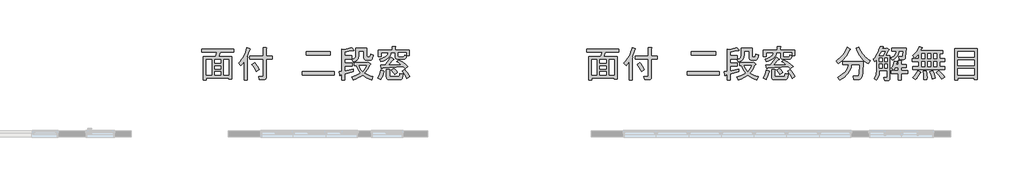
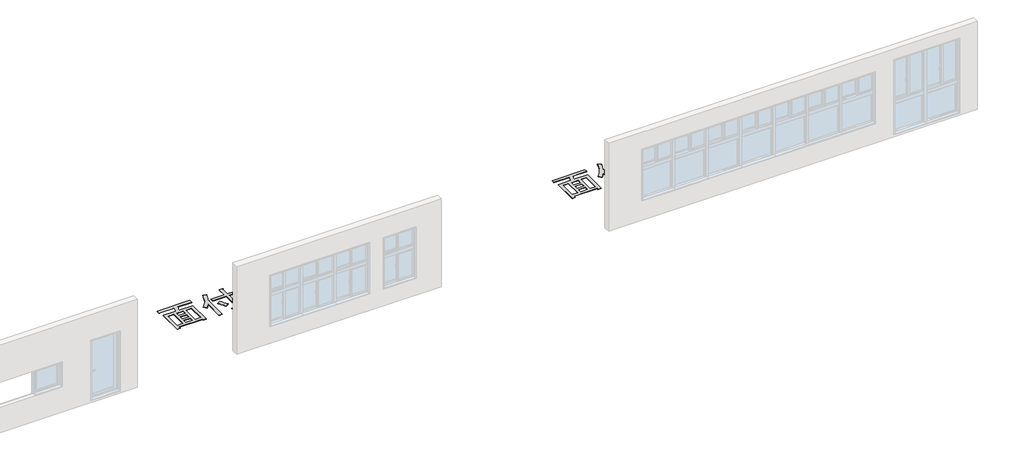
# One storey, part 5 of 9: 2 proxies.
"""IFC4 building model written with IfcOpenShell, lengths in millimetres."""

from ifc_helpers import new_model, si_unit, origin, origin_with_axes, place, context, project, spatial, polyline, outline, extrude, element, save

model = new_model("IFC4")

# Units and contexts
model_context = context("Model", 3, world=origin())
ifc_project = project(units=[si_unit("LENGTHUNIT", "METRE", prefix="MILLI")], contexts=[model_context])

# Site, building, storey
site = spatial("IfcSite", under=ifc_project)
building = spatial("IfcBuilding", under=site)
storey = spatial("IfcBuildingStorey", under=building, Name="レベル 1", Elevation=0.0)

# Proxies
placement = place(None, origin())
element("IfcBuildingElementProxy", 1, Name="600mm Arial", ObjectType="600mm Arial", at=placement, inside=storey, context=model_context, shape_type="SweptSolid", body=[
    extrude(outline(polyline([(98031.4662831, -14884.2035738), (97931.7378591, -14884.2035738), (97931.7378591, -14842.4386369), (97187.3851991, -14842.4386369), (97187.3851991, -14903.7198995), (97087.656775, -14903.7198995), (97087.656775, -14132.8250366), (97489.8882465, -14132.8250366), (97528.9208978, -13978.8412272), (97031.2545939, -13978.8412272), (97031.2545939, -13879.1128032), (98090.0152601, -13879.1128032), (98090.0152601, -13978.8412272), (97641.1397703, -13978.8412272), (97587.4698747, -14132.8250366), (98031.4662831, -14132.8250366), (98031.4662831, -14884.2035738)]), holes=[polyline([(97356.0062526, -14742.7102129), (97356.0062526, -14232.5534606), (97187.3851991, -14232.5534606), (97187.3851991, -14742.7102129), (97356.0062526, -14742.7102129)]), polyline([(97663.3883815, -14742.7102129), (97663.3883815, -14629.9058507), (97455.7346767, -14629.9058507), (97455.7346767, -14742.7102129), (97663.3883815, -14742.7102129)]), polyline([(97663.3883815, -14542.6678751), (97663.3883815, -14439.6216757), (97455.7346767, -14439.6216757), (97455.7346767, -14542.6678751), (97663.3883815, -14542.6678751)]), polyline([(97663.3883815, -14232.5534606), (97455.7346767, -14232.5534606), (97455.7346767, -14352.3837), (97663.3883815, -14352.3837), (97663.3883815, -14232.5534606)]), polyline([(97931.7378591, -14232.5534606), (97763.1168055, -14232.5534606), (97763.1168055, -14742.7102129), (97931.7378591, -14742.7102129), (97931.7378591, -14232.5534606)])]), origin_with_axes(), (0.0, 0.0, 1.0), 10.0),
    extrude(outline(polyline([(98612.076971, -13898.6291288), (98595.6100712, -13959.6176465), (98575.4838604, -14020.6061641), (98551.6983385, -14081.5946817), (98524.2535056, -14142.5831994), (98543.1599461, -14148.6820511), (98551.0884534, -14157.2204436), (98548.0390275, -14168.1983768), (98534.0116684, -14181.6158507), (98534.0116684, -14903.7198995), (98434.2832444, -14903.7198995), (98434.2832444, -14298.7138045), (98381.7355376, -14370.6802553), (98329.0902492, -14430.4490026), (98251.0249466, -14342.6255372), (98301.1880024, -14290.8615329), (98346.7769193, -14235.5906888), (98387.7916974, -14176.8130049), (98424.2323367, -14114.5284813), (98456.0988372, -14048.7371179), (98483.3911988, -13979.4389147), (98506.1094216, -13906.6338718), (98524.2535056, -13830.3219891), (98626.7142152, -13869.3546404), (98633.1180096, -13878.502918), (98632.813067, -13886.4314253), (98625.7993875, -13893.1401623), (98612.076971, -13898.6291288)])), origin_with_axes(), (0.0, 0.0, 1.0), 10.0),
    extrude(outline(polyline([(99063.6847464, -14113.3087109), (99063.6847464, -13835.2010705), (99158.534089, -13835.2010705), (99173.4762758, -13838.8603816), (99179.270185, -13844.9592333), (99175.9158165, -13853.4976258), (99163.4131704, -13864.475559), (99163.4131704, -14113.3087109), (99363.4555083, -14113.3087109), (99363.4555083, -14213.037135), (99163.4131704, -14213.037135), (99163.4131704, -14811.0173527), (99158.534089, -14848.2447438), (99152.4352373, -14862.8697904), (99143.8968448, -14874.8357375), (99132.9189116, -14884.1425853), (99119.5014377, -14890.7903337), (99085.3478679, -14896.1085325), (98938.9754255, -14896.1085325), (98914.5800185, -14796.3801084), (99046.3152166, -14796.3801084), (99059.3423639, -14791.501027), (99063.6847464, -14776.8637828), (99063.6847464, -14213.037135), (98626.7142152, -14213.037135), (98626.7142152, -14113.3087109), (99063.6847464, -14113.3087109)])), origin_with_axes(), (0.0, 0.0, 1.0), 10.0),
    extrude(outline(polyline([(98782.8448204, -14332.8673744), (98823.4021846, -14385.6224422), (98862.1298933, -14441.4269358), (98934.0963441, -14562.1842007), (98836.5147159, -14625.612259), (98801.7512609, -14557.9150045), (98765.7680354, -14496.3166017), (98728.5650397, -14440.8170506), (98690.1422736, -14391.4163513), (98782.8448204, -14332.8673744)])), origin_with_axes(), (0.0, 0.0, 1.0), 10.0),
    extrude(outline(polyline([(101285.6184209, -13971.81535), (101285.6184209, -14084.0342225), (100485.4490695, -14084.0342225), (100485.4490695, -13971.81535), (101285.6184209, -13971.81535)])), origin_with_axes(), (0.0, 0.0, 1.0), 10.0),
    extrude(outline(polyline([(101407.5954561, -14635.3704219), (101407.5954561, -14747.5892943), (100353.7138714, -14747.5892943), (100353.7138714, -14635.3704219), (101407.5954561, -14635.3704219)])), origin_with_axes(), (0.0, 0.0, 1.0), 10.0),
    extrude(outline(polyline([(101758.8893177, -13898.6291288), (101818.9630076, -13887.3462531), (101877.2070419, -13873.0139514), (101933.6214207, -13855.6322239), (101988.206144, -13835.2010705), (102056.5132838, -13913.2663731), (102061.3923652, -13923.6344211), (102056.5132838, -13930.343158), (102041.8760395, -13933.3925839), (102017.4806325, -13932.7826987), (101896.7233676, -13958.3978761), (101768.6474805, -13976.6944314), (101768.6474805, -14108.4296295), (101997.9643068, -14108.4296295), (101997.9643068, -14208.1580535), (101768.6474805, -14208.1580535), (101768.6474805, -14342.6255372), (102002.8433882, -14342.6255372), (102002.8433882, -14442.3539613), (101768.6474805, -14442.3539613), (101768.6474805, -14606.0959334), (102046.7551209, -14547.5469565), (102046.7551209, -14635.3704219), (101768.6474805, -14708.556643), (101768.6474805, -14903.7198995), (101668.9190565, -14903.7198995), (101668.9190565, -14728.0729687), (101617.3959568, -14742.7102129), (101614.0415883, -14756.4326294), (101608.8575643, -14763.4463089), (101601.8438848, -14763.7512515), (101593.0005497, -14757.3474571), (101578.3633055, -14635.3704219), (101668.9190565, -14620.7331776), (101668.9190565, -13879.1128032), (101758.8893177, -13898.6291288)])), origin_with_axes(), (0.0, 0.0, 1.0), 10.0),
    extrude(outline(polyline([(102563.9377505, -14152.3413622), (102587.1133872, -14147.4622808), (102594.1270667, -14141.363429), (102598.0913204, -14132.8250366), (102617.607646, -14054.759734), (102710.3101928, -14079.155141), (102702.0005073, -14119.682011), (102691.7086949, -14154.8052983), (102679.4347558, -14184.525003), (102665.1786898, -14208.8411249), (102648.9404969, -14227.7536643), (102630.7201773, -14241.2626209), (102610.5177308, -14249.3679949), (102588.3331575, -14252.0697862), (102485.8724479, -14252.0697862), (102464.7856679, -14250.6640009), (102446.5104586, -14246.4466449), (102431.04682, -14239.4177183), (102418.394752, -14229.5772209), (102408.5542547, -14216.925153), (102401.525328, -14201.4615143), (102397.307972, -14183.186305), (102395.9021867, -14162.099525), (102395.9021867, -13949.5667388), (102227.2811331, -13949.5667388), (102227.2811331, -14093.7923853), (102224.3841786, -14134.6546921), (102215.6933148, -14171.8576878), (102201.2085418, -14205.4013725), (102180.9298597, -14235.2857462), (102154.8572684, -14261.5108088), (102122.990768, -14284.0765603), (102085.3303583, -14302.9830008), (102041.8760395, -14318.2301302), (102002.8433882, -14230.4066648), (102032.0721353, -14221.7920367), (102057.4037161, -14210.5853965), (102078.8381306, -14196.7867444), (102096.3753789, -14180.3960803), (102110.0154609, -14161.4134042), (102119.7583765, -14139.8387161), (102125.604126, -14115.672016), (102127.5527091, -14088.9133039), (102127.5527091, -13849.8383147), (102495.6306107, -13849.8383147), (102495.6306107, -14113.3087109), (102497.7652088, -14130.3854959), (102504.1690032, -14142.5831994), (102514.8419938, -14149.9018215), (102529.7841806, -14152.3413622), (102563.9377505, -14152.3413622)])), origin_with_axes(), (0.0, 0.0, 1.0), 10.0),
    extrude(outline(polyline([(102651.7612159, -14903.7198995), (102570.6464874, -14873.5305832), (102493.19107, -14836.6325301), (102419.3949637, -14793.02574), (102349.2581684, -14742.7102129), (102285.8301101, -14789.6713715), (102212.6438889, -14832.973219), (102129.6995049, -14872.6157555), (102036.9969581, -14908.5989809), (101993.0852254, -14806.1382712), (102082.4334038, -14778.0835531), (102160.1937637, -14747.5892943), (102226.3663054, -14714.6554948), (102280.9510287, -14679.2821546), (102237.9541237, -14620.8185616), (102201.6659557, -14559.4031243), (102172.0865247, -14495.0358428), (102149.2158306, -14427.716717), (102076.0296094, -14427.716717), (102076.0296094, -14327.988293), (102505.3887736, -14327.988293), (102524.9050992, -14308.4719673), (102602.9704018, -14371.9000257), (102613.0335072, -14380.7433607), (102613.9483349, -14387.7570403), (102605.7148851, -14392.9410643), (102588.3331575, -14396.2954327), (102549.9103914, -14483.8139555), (102507.8283143, -14560.9644304), (102462.086926, -14627.7468572), (102412.6862267, -14684.161236), (102470.3203759, -14714.9604374), (102535.8830324, -14743.9299833), (102609.3741961, -14771.0698736), (102690.7938672, -14796.3801084), (102651.7612159, -14903.7198995)]), holes=[polyline([(102237.039296, -14427.716717), (102253.2012531, -14475.4341332), (102277.2917176, -14524.322529), (102309.3106894, -14574.3819042), (102349.2581684, -14625.612259), (102387.9858771, -14581.4077815), (102421.2246192, -14533.6903653), (102448.9743947, -14482.4600105), (102471.2352037, -14427.716717), (102237.039296, -14427.716717)])]), origin_with_axes(), (0.0, 0.0, 1.0), 10.0),
    extrude(outline(polyline([(103232.3719038, -14900.9876139), (103211.2851238, -14899.5818285), (103193.0099145, -14895.3644725), (103177.5462758, -14888.3355459), (103164.8942078, -14878.4950486), (103155.0537105, -14865.8429806), (103148.0247839, -14850.3793419), (103143.8074279, -14832.1041326), (103142.4016425, -14811.0173527), (103142.4016425, -14567.0632821), (103237.2509852, -14567.0632821), (103252.193172, -14570.7225932), (103257.9870812, -14576.8214449), (103254.6327127, -14585.3598374), (103242.1300666, -14596.3377706), (103242.1300666, -14767.10562), (103243.9597221, -14782.0478068), (103249.4486887, -14792.7207974), (103258.5969663, -14799.1245917), (103271.404555, -14801.2591898), (103529.9958698, -14801.2591898), (103541.5074525, -14799.5820056), (103551.6467936, -14794.5504529), (103567.8087507, -14774.4242421), (103578.4817413, -14740.8805574), (103583.6657653, -14693.9193988), (103691.0055564, -14718.3148059), (103686.126475, -14761.1287452), (103678.8078528, -14798.2341594), (103669.04969, -14829.6310482), (103656.8519865, -14855.3194119), (103642.2147423, -14875.2992502), (103625.1379573, -14889.5705634), (103605.6216317, -14898.1333512), (103583.6657653, -14900.9876139), (103232.3719038, -14900.9876139)])), origin_with_axes(), (0.0, 0.0, 1.0), 10.0),
    extrude(outline(polyline([(102998.175996, -14508.5143052), (102994.8216276, -14522.2367217), (102989.6376036, -14529.2504012), (102982.623924, -14529.5553438), (102973.780589, -14523.1515494), (102949.3851819, -14415.8117584), (103100.6367057, -14415.8117584), (103286.0417993, -14157.2204436), (103383.6234275, -14215.7694205), (103383.9283701, -14225.832526), (103379.9641164, -14231.6264351), (103371.7306666, -14233.1511481), (103359.2280204, -14230.4066648), (103193.3392525, -14415.8117584), (103612.9402538, -14391.4163513), (103545.8528844, -14338.9662262), (103481.2050557, -14298.7138045), (103544.633114, -14245.043909), (103607.4512872, -14274.9282826), (103678.8078528, -14320.6696709), (103758.7028109, -14382.2680737), (103847.1361615, -14459.7234911), (103759.3126961, -14528.0306308), (103691.0055564, -14459.7234911), (102998.175996, -14508.5143052)])), origin_with_axes(), (0.0, 0.0, 1.0), 10.0),
    extrude(outline(polyline([(103749.5545333, -14567.0632821), (103798.0404048, -14621.952948), (103841.0373098, -14679.2821546), (103878.5452481, -14739.0509018), (103910.5642199, -14801.2591898), (103812.9825916, -14864.6872482), (103782.1833902, -14796.3801084), (103748.3347629, -14732.9520501), (103711.4367098, -14674.4030732), (103671.4892307, -14620.7331776), (103749.5545333, -14567.0632821)])), origin_with_axes(), (0.0, 0.0, 1.0), 10.0),
    extrude(outline(polyline([(103412.897916, -14723.1938873), (103395.2112458, -14690.2600877), (103371.425724, -14654.8867475), (103305.5581249, -14576.8214449), (103388.5025089, -14523.1515494), (103419.6066529, -14549.9864972), (103449.4910265, -14581.7005264), (103478.1556298, -14618.2936369), (103505.6004628, -14659.7658289), (103412.897916, -14723.1938873)])), origin_with_axes(), (0.0, 0.0, 1.0), 10.0),
    extrude(outline(polyline([(102856.6826351, -14840.2918411), (102892.3609179, -14771.0698736), (102921.3304638, -14704.897332), (102943.5912728, -14641.7742162), (102959.1433448, -14581.7005264), (103056.724973, -14615.8540962), (103063.7386525, -14623.1727183), (103065.2633654, -14630.4913405), (103061.2991118, -14637.8099626), (103051.8458916, -14645.1285847), (103032.9394511, -14711.6060689), (103010.3736996, -14774.4242421), (102984.148637, -14833.5831042), (102954.2642633, -14889.0826552), (102856.6826351, -14840.2918411)])), origin_with_axes(), (0.0, 0.0, 1.0), 10.0),
    extrude(outline(polyline([(103900.806057, -13913.2663731), (103900.806057, -14103.5505481), (103817.8616731, -14103.5505481), (103802.3096011, -14154.5247511), (103792.0177887, -14174.5503309), (103780.0487921, -14190.9348962), (103766.4026113, -14203.6784469), (103751.0792462, -14212.7809832), (103734.078697, -14218.2425049), (103715.4009634, -14220.0630122), (103510.4795442, -14220.0630122), (103477.5213492, -14214.6106387), (103464.5734869, -14207.7951719), (103453.9797814, -14198.2535183), (103445.7402327, -14185.985678), (103439.8548408, -14170.9916509), (103435.1465272, -14132.8250366), (103435.1465272, -14000.5043487), (103290.9208807, -14000.5043487), (103284.593322, -14049.7678238), (103268.0501866, -14095.7806109), (103241.2914745, -14138.5427101), (103204.3171856, -14178.0541212), (103157.1273201, -14214.3148444), (103099.7218779, -14247.3248796), (103032.100859, -14277.0842267), (102954.2642633, -14303.5928859), (102924.9897749, -14210.8903391), (102987.8841837, -14192.2766436), (103042.3926713, -14171.4673613), (103088.5152378, -14148.4624925), (103126.2518831, -14123.262037), (103155.6026072, -14095.8659949), (103176.5674101, -14066.2743661), (103189.1462919, -14034.4871507), (103193.3392525, -14000.5043487), (102964.0224262, -14000.5043487), (102964.0224262, -14127.9459551), (102864.2940021, -14127.9459551), (102864.2940021, -13913.2663731), (103327.8067362, -13913.2663731), (103327.8067362, -13796.1684192), (103422.6560788, -13796.1684192), (103437.5982656, -13799.8277303), (103443.3921748, -13805.926582), (103440.0378063, -13814.4649745), (103427.5351602, -13825.4429077), (103427.5351602, -13913.2663731), (103900.806057, -13913.2663731)]), holes=[polyline([(103686.126475, -14132.8250366), (103701.678547, -14129.1657255), (103714.1811931, -14118.1877923), (103723.6344133, -14099.891237), (103730.0382077, -14074.2760596), (103801.077633, -14093.7923853), (103801.077633, -14000.5043487), (103534.8749512, -14000.5043487), (103534.8749512, -14103.5505481), (103536.7046068, -14116.3581368), (103542.1935733, -14125.5064144), (103551.341851, -14130.995381), (103564.1494397, -14132.8250366), (103686.126475, -14132.8250366)])]), origin_with_axes(), (0.0, 0.0, 1.0), 10.0),
])
element("IfcBuildingElementProxy", 2, Name="600mm Arial", ObjectType="600mm Arial", at=placement, inside=storey, context=model_context, shape_type="SweptSolid", body=[
    extrude(outline(polyline([(110771.4662831, -14884.2035738), (110671.7378591, -14884.2035738), (110671.7378591, -14842.4386369), (109927.3851991, -14842.4386369), (109927.3851991, -14903.7198995), (109827.656775, -14903.7198995), (109827.656775, -14132.8250366), (110229.8882465, -14132.8250366), (110268.9208978, -13978.8412272), (109771.2545939, -13978.8412272), (109771.2545939, -13879.1128032), (110830.0152601, -13879.1128032), (110830.0152601, -13978.8412272), (110381.1397703, -13978.8412272), (110327.4698747, -14132.8250366), (110771.4662831, -14132.8250366), (110771.4662831, -14884.2035738)]), holes=[polyline([(110096.0062526, -14742.7102129), (110096.0062526, -14232.5534606), (109927.3851991, -14232.5534606), (109927.3851991, -14742.7102129), (110096.0062526, -14742.7102129)]), polyline([(110403.3883815, -14742.7102129), (110403.3883815, -14629.9058507), (110195.7346767, -14629.9058507), (110195.7346767, -14742.7102129), (110403.3883815, -14742.7102129)]), polyline([(110403.3883815, -14542.6678751), (110403.3883815, -14439.6216757), (110195.7346767, -14439.6216757), (110195.7346767, -14542.6678751), (110403.3883815, -14542.6678751)]), polyline([(110403.3883815, -14232.5534606), (110195.7346767, -14232.5534606), (110195.7346767, -14352.3837), (110403.3883815, -14352.3837), (110403.3883815, -14232.5534606)]), polyline([(110671.7378591, -14232.5534606), (110503.1168055, -14232.5534606), (110503.1168055, -14742.7102129), (110671.7378591, -14742.7102129), (110671.7378591, -14232.5534606)])]), origin_with_axes(), (0.0, 0.0, 1.0), 10.0),
    extrude(outline(polyline([(111352.076971, -13898.6291288), (111335.6100712, -13959.6176465), (111315.4838604, -14020.6061641), (111291.6983385, -14081.5946817), (111264.2535056, -14142.5831994), (111283.1599461, -14148.6820511), (111291.0884534, -14157.2204436), (111288.0390275, -14168.1983768), (111274.0116684, -14181.6158507), (111274.0116684, -14903.7198995), (111174.2832444, -14903.7198995), (111174.2832444, -14298.7138045), (111121.7355376, -14370.6802553), (111069.0902492, -14430.4490026), (110991.0249466, -14342.6255372), (111041.1880024, -14290.8615329), (111086.7769193, -14235.5906888), (111127.7916974, -14176.8130049), (111164.2323367, -14114.5284813), (111196.0988372, -14048.7371179), (111223.3911988, -13979.4389147), (111246.1094216, -13906.6338718), (111264.2535056, -13830.3219891), (111366.7142152, -13869.3546404), (111373.1180096, -13878.502918), (111372.813067, -13886.4314253), (111365.7993875, -13893.1401623), (111352.076971, -13898.6291288)])), origin_with_axes(), (0.0, 0.0, 1.0), 10.0),
    extrude(outline(polyline([(111803.6847464, -14113.3087109), (111803.6847464, -13835.2010705), (111898.534089, -13835.2010705), (111913.4762758, -13838.8603816), (111919.270185, -13844.9592333), (111915.9158165, -13853.4976258), (111903.4131704, -13864.475559), (111903.4131704, -14113.3087109), (112103.4555083, -14113.3087109), (112103.4555083, -14213.037135), (111903.4131704, -14213.037135), (111903.4131704, -14811.0173527), (111898.534089, -14848.2447438), (111892.4352373, -14862.8697904), (111883.8968448, -14874.8357375), (111872.9189116, -14884.1425853), (111859.5014377, -14890.7903337), (111825.3478679, -14896.1085325), (111678.9754255, -14896.1085325), (111654.5800185, -14796.3801084), (111786.3152166, -14796.3801084), (111799.3423639, -14791.501027), (111803.6847464, -14776.8637828), (111803.6847464, -14213.037135), (111366.7142152, -14213.037135), (111366.7142152, -14113.3087109), (111803.6847464, -14113.3087109)])), origin_with_axes(), (0.0, 0.0, 1.0), 10.0),
    extrude(outline(polyline([(111522.8448204, -14332.8673744), (111563.4021846, -14385.6224422), (111602.1298933, -14441.4269358), (111674.0963441, -14562.1842007), (111576.5147159, -14625.612259), (111541.7512609, -14557.9150045), (111505.7680354, -14496.3166017), (111468.5650397, -14440.8170506), (111430.1422736, -14391.4163513), (111522.8448204, -14332.8673744)])), origin_with_axes(), (0.0, 0.0, 1.0), 10.0),
    extrude(outline(polyline([(114025.6184209, -13971.81535), (114025.6184209, -14084.0342225), (113225.4490695, -14084.0342225), (113225.4490695, -13971.81535), (114025.6184209, -13971.81535)])), origin_with_axes(), (0.0, 0.0, 1.0), 10.0),
    extrude(outline(polyline([(114147.5954561, -14635.3704219), (114147.5954561, -14747.5892943), (113093.7138714, -14747.5892943), (113093.7138714, -14635.3704219), (114147.5954561, -14635.3704219)])), origin_with_axes(), (0.0, 0.0, 1.0), 10.0),
    extrude(outline(polyline([(114498.8893177, -13898.6291288), (114558.9630076, -13887.3462531), (114617.2070419, -13873.0139514), (114673.6214207, -13855.6322239), (114728.206144, -13835.2010705), (114796.5132838, -13913.2663731), (114801.3923652, -13923.6344211), (114796.5132838, -13930.343158), (114781.8760395, -13933.3925839), (114757.4806325, -13932.7826987), (114636.7233676, -13958.3978761), (114508.6474805, -13976.6944314), (114508.6474805, -14108.4296295), (114737.9643068, -14108.4296295), (114737.9643068, -14208.1580535), (114508.6474805, -14208.1580535), (114508.6474805, -14342.6255372), (114742.8433882, -14342.6255372), (114742.8433882, -14442.3539613), (114508.6474805, -14442.3539613), (114508.6474805, -14606.0959334), (114786.7551209, -14547.5469565), (114786.7551209, -14635.3704219), (114508.6474805, -14708.556643), (114508.6474805, -14903.7198995), (114408.9190565, -14903.7198995), (114408.9190565, -14728.0729687), (114357.3959568, -14742.7102129), (114354.0415883, -14756.4326294), (114348.8575643, -14763.4463089), (114341.8438848, -14763.7512515), (114333.0005497, -14757.3474571), (114318.3633055, -14635.3704219), (114408.9190565, -14620.7331776), (114408.9190565, -13879.1128032), (114498.8893177, -13898.6291288)])), origin_with_axes(), (0.0, 0.0, 1.0), 10.0),
    extrude(outline(polyline([(115303.9377505, -14152.3413622), (115327.1133872, -14147.4622808), (115334.1270667, -14141.363429), (115338.0913204, -14132.8250366), (115357.607646, -14054.759734), (115450.3101928, -14079.155141), (115442.0005073, -14119.682011), (115431.7086949, -14154.8052983), (115419.4347558, -14184.525003), (115405.1786898, -14208.8411249), (115388.9404969, -14227.7536643), (115370.7201773, -14241.2626209), (115350.5177308, -14249.3679949), (115328.3331575, -14252.0697862), (115225.8724479, -14252.0697862), (115204.7856679, -14250.6640009), (115186.5104586, -14246.4466449), (115171.04682, -14239.4177183), (115158.394752, -14229.5772209), (115148.5542547, -14216.925153), (115141.525328, -14201.4615143), (115137.307972, -14183.186305), (115135.9021867, -14162.099525), (115135.9021867, -13949.5667388), (114967.2811331, -13949.5667388), (114967.2811331, -14093.7923853), (114964.3841786, -14134.6546921), (114955.6933148, -14171.8576878), (114941.2085418, -14205.4013725), (114920.9298597, -14235.2857462), (114894.8572684, -14261.5108088), (114862.990768, -14284.0765603), (114825.3303583, -14302.9830008), (114781.8760395, -14318.2301302), (114742.8433882, -14230.4066648), (114772.0721353, -14221.7920367), (114797.4037161, -14210.5853965), (114818.8381306, -14196.7867444), (114836.3753789, -14180.3960803), (114850.0154609, -14161.4134042), (114859.7583765, -14139.8387161), (114865.604126, -14115.672016), (114867.5527091, -14088.9133039), (114867.5527091, -13849.8383147), (115235.6306107, -13849.8383147), (115235.6306107, -14113.3087109), (115237.7652088, -14130.3854959), (115244.1690032, -14142.5831994), (115254.8419938, -14149.9018215), (115269.7841806, -14152.3413622), (115303.9377505, -14152.3413622)])), origin_with_axes(), (0.0, 0.0, 1.0), 10.0),
    extrude(outline(polyline([(115391.7612159, -14903.7198995), (115310.6464874, -14873.5305832), (115233.19107, -14836.6325301), (115159.3949637, -14793.02574), (115089.2581684, -14742.7102129), (115025.8301101, -14789.6713715), (114952.6438889, -14832.973219), (114869.6995049, -14872.6157555), (114776.9969581, -14908.5989809), (114733.0852254, -14806.1382712), (114822.4334038, -14778.0835531), (114900.1937637, -14747.5892943), (114966.3663054, -14714.6554948), (115020.9510287, -14679.2821546), (114977.9541237, -14620.8185616), (114941.6659557, -14559.4031243), (114912.0865247, -14495.0358428), (114889.2158306, -14427.716717), (114816.0296094, -14427.716717), (114816.0296094, -14327.988293), (115245.3887736, -14327.988293), (115264.9050992, -14308.4719673), (115342.9704018, -14371.9000257), (115353.0335072, -14380.7433607), (115353.9483349, -14387.7570403), (115345.7148851, -14392.9410643), (115328.3331575, -14396.2954327), (115289.9103914, -14483.8139555), (115247.8283143, -14560.9644304), (115202.086926, -14627.7468572), (115152.6862267, -14684.161236), (115210.3203759, -14714.9604374), (115275.8830324, -14743.9299833), (115349.3741961, -14771.0698736), (115430.7938672, -14796.3801084), (115391.7612159, -14903.7198995)]), holes=[polyline([(114977.039296, -14427.716717), (114993.2012531, -14475.4341332), (115017.2917176, -14524.322529), (115049.3106894, -14574.3819042), (115089.2581684, -14625.612259), (115127.9858771, -14581.4077815), (115161.2246192, -14533.6903653), (115188.9743947, -14482.4600105), (115211.2352037, -14427.716717), (114977.039296, -14427.716717)])]), origin_with_axes(), (0.0, 0.0, 1.0), 10.0),
    extrude(outline(polyline([(115972.3719038, -14900.9876139), (115951.2851238, -14899.5818285), (115933.0099145, -14895.3644725), (115917.5462758, -14888.3355459), (115904.8942078, -14878.4950486), (115895.0537105, -14865.8429806), (115888.0247839, -14850.3793419), (115883.8074279, -14832.1041326), (115882.4016425, -14811.0173527), (115882.4016425, -14567.0632821), (115977.2509852, -14567.0632821), (115992.193172, -14570.7225932), (115997.9870812, -14576.8214449), (115994.6327127, -14585.3598374), (115982.1300666, -14596.3377706), (115982.1300666, -14767.10562), (115983.9597221, -14782.0478068), (115989.4486887, -14792.7207974), (115998.5969663, -14799.1245917), (116011.404555, -14801.2591898), (116269.9958698, -14801.2591898), (116281.5074525, -14799.5820056), (116291.6467936, -14794.5504529), (116307.8087507, -14774.4242421), (116318.4817413, -14740.8805574), (116323.6657653, -14693.9193988), (116431.0055564, -14718.3148059), (116426.126475, -14761.1287452), (116418.8078528, -14798.2341594), (116409.04969, -14829.6310482), (116396.8519865, -14855.3194119), (116382.2147423, -14875.2992502), (116365.1379573, -14889.5705634), (116345.6216317, -14898.1333512), (116323.6657653, -14900.9876139), (115972.3719038, -14900.9876139)])), origin_with_axes(), (0.0, 0.0, 1.0), 10.0),
    extrude(outline(polyline([(115738.175996, -14508.5143052), (115734.8216276, -14522.2367217), (115729.6376036, -14529.2504012), (115722.623924, -14529.5553438), (115713.780589, -14523.1515494), (115689.3851819, -14415.8117584), (115840.6367057, -14415.8117584), (116026.0417993, -14157.2204436), (116123.6234275, -14215.7694205), (116123.9283701, -14225.832526), (116119.9641164, -14231.6264351), (116111.7306666, -14233.1511481), (116099.2280204, -14230.4066648), (115933.3392525, -14415.8117584), (116352.9402538, -14391.4163513), (116285.8528844, -14338.9662262), (116221.2050557, -14298.7138045), (116284.633114, -14245.043909), (116347.4512872, -14274.9282826), (116418.8078528, -14320.6696709), (116498.7028109, -14382.2680737), (116587.1361615, -14459.7234911), (116499.3126961, -14528.0306308), (116431.0055564, -14459.7234911), (115738.175996, -14508.5143052)])), origin_with_axes(), (0.0, 0.0, 1.0), 10.0),
    extrude(outline(polyline([(116489.5545333, -14567.0632821), (116538.0404048, -14621.952948), (116581.0373098, -14679.2821546), (116618.5452481, -14739.0509018), (116650.5642199, -14801.2591898), (116552.9825916, -14864.6872482), (116522.1833902, -14796.3801084), (116488.3347629, -14732.9520501), (116451.4367098, -14674.4030732), (116411.4892307, -14620.7331776), (116489.5545333, -14567.0632821)])), origin_with_axes(), (0.0, 0.0, 1.0), 10.0),
    extrude(outline(polyline([(116152.897916, -14723.1938873), (116135.2112458, -14690.2600877), (116111.425724, -14654.8867475), (116045.5581249, -14576.8214449), (116128.5025089, -14523.1515494), (116159.6066529, -14549.9864972), (116189.4910265, -14581.7005264), (116218.1556298, -14618.2936369), (116245.6004628, -14659.7658289), (116152.897916, -14723.1938873)])), origin_with_axes(), (0.0, 0.0, 1.0), 10.0),
    extrude(outline(polyline([(115596.6826351, -14840.2918411), (115632.3609179, -14771.0698736), (115661.3304638, -14704.897332), (115683.5912728, -14641.7742162), (115699.1433448, -14581.7005264), (115796.724973, -14615.8540962), (115803.7386525, -14623.1727183), (115805.2633654, -14630.4913405), (115801.2991118, -14637.8099626), (115791.8458916, -14645.1285847), (115772.9394511, -14711.6060689), (115750.3736996, -14774.4242421), (115724.148637, -14833.5831042), (115694.2642633, -14889.0826552), (115596.6826351, -14840.2918411)])), origin_with_axes(), (0.0, 0.0, 1.0), 10.0),
    extrude(outline(polyline([(116640.806057, -13913.2663731), (116640.806057, -14103.5505481), (116557.8616731, -14103.5505481), (116542.3096011, -14154.5247511), (116532.0177887, -14174.5503309), (116520.0487921, -14190.9348962), (116506.4026113, -14203.6784469), (116491.0792462, -14212.7809832), (116474.078697, -14218.2425049), (116455.4009634, -14220.0630122), (116250.4795442, -14220.0630122), (116217.5213492, -14214.6106387), (116204.5734869, -14207.7951719), (116193.9797814, -14198.2535183), (116185.7402327, -14185.985678), (116179.8548408, -14170.9916509), (116175.1465272, -14132.8250366), (116175.1465272, -14000.5043487), (116030.9208807, -14000.5043487), (116024.593322, -14049.7678238), (116008.0501866, -14095.7806109), (115981.2914745, -14138.5427101), (115944.3171856, -14178.0541212), (115897.1273201, -14214.3148444), (115839.7218779, -14247.3248796), (115772.100859, -14277.0842267), (115694.2642633, -14303.5928859), (115664.9897749, -14210.8903391), (115727.8841837, -14192.2766436), (115782.3926713, -14171.4673613), (115828.5152378, -14148.4624925), (115866.2518831, -14123.262037), (115895.6026072, -14095.8659949), (115916.5674101, -14066.2743661), (115929.1462919, -14034.4871507), (115933.3392525, -14000.5043487), (115704.0224262, -14000.5043487), (115704.0224262, -14127.9459551), (115604.2940021, -14127.9459551), (115604.2940021, -13913.2663731), (116067.8067362, -13913.2663731), (116067.8067362, -13796.1684192), (116162.6560788, -13796.1684192), (116177.5982656, -13799.8277303), (116183.3921748, -13805.926582), (116180.0378063, -13814.4649745), (116167.5351602, -13825.4429077), (116167.5351602, -13913.2663731), (116640.806057, -13913.2663731)]), holes=[polyline([(116426.126475, -14132.8250366), (116441.678547, -14129.1657255), (116454.1811931, -14118.1877923), (116463.6344133, -14099.891237), (116470.0382077, -14074.2760596), (116541.077633, -14093.7923853), (116541.077633, -14000.5043487), (116274.8749512, -14000.5043487), (116274.8749512, -14103.5505481), (116276.7046068, -14116.3581368), (116282.1935733, -14125.5064144), (116291.341851, -14130.995381), (116304.1494397, -14132.8250366), (116426.126475, -14132.8250366)])]), origin_with_axes(), (0.0, 0.0, 1.0), 10.0),
    extrude(outline(polyline([(118903.5288521, -14293.8347231), (118884.0125265, -14689.0403174), (118879.6670946, -14738.2123097), (118871.5098803, -14780.8280364), (118859.5408838, -14816.8874975), (118843.7601048, -14846.3906929), (118824.1675435, -14869.3376226), (118800.7631999, -14885.7282868), (118773.5470739, -14895.5626852), (118742.5191655, -14898.8408181), (118596.1467232, -14898.8408181), (118581.509479, -14786.6219456), (118703.4865143, -14786.6219456), (118731.5412324, -14781.4379216), (118752.2773284, -14765.8858496), (118765.6948022, -14739.9657296), (118771.793654, -14703.6775616), (118791.3099796, -14393.5631472), (118522.9605021, -14393.5631472), (118518.0814206, -14425.5699212), (118504.5877111, -14491.9711698), (118481.1833675, -14557.0001767), (118447.8683897, -14620.656942), (118404.6427778, -14682.9414656), (118351.5065319, -14743.8537476), (118288.4596518, -14803.393788), (118215.5021375, -14861.5615866), (118132.6339892, -14918.3571437), (118059.447768, -14825.6545969), (118134.3111734, -14780.2181513), (118200.3312438, -14734.1718204), (118257.5079791, -14687.5156044), (118305.8413793, -14640.2495033), (118345.3314444, -14592.3735169), (118375.9781746, -14543.8876454), (118397.7815696, -14494.7918887), (118410.7416296, -14445.0862469), (118420.4997924, -14393.5631472), (118235.0946988, -14393.5631472), (118235.0946988, -14293.8347231), (118903.5288521, -14293.8347231)])), origin_with_axes(), (0.0, 0.0, 1.0), 10.0),
    extrude(outline(polyline([(118464.4115251, -13908.3872917), (118432.9262029, -13971.1292292), (118397.0192131, -14032.4989251), (118356.6905559, -14092.4963793), (118311.940231, -14151.1215919), (118262.7682387, -14208.3745628), (118209.1745788, -14264.2552921), (118151.1592514, -14318.7637797), (118088.7222565, -14371.9000257), (118010.6569539, -14279.1974789), (118071.9504141, -14233.6847976), (118128.9746781, -14184.9702191), (118181.7297459, -14133.0537435), (118230.2156174, -14077.9353707), (118274.4322927, -14019.6151007), (118314.3797717, -13958.0929335), (118350.0580546, -13893.3688692), (118381.4671411, -13825.4429077), (118474.1696879, -13883.9918846), (118484.5377359, -13892.8352197), (118486.3673915, -13899.8488992), (118479.6586545, -13905.0329232), (118464.4115251, -13908.3872917)])), origin_with_axes(), (0.0, 0.0, 1.0), 10.0),
    extrude(outline(polyline([(119069.4176201, -14371.9000257), (119004.5410844, -14329.7417129), (118944.0862163, -14281.332077), (118888.0530157, -14226.6711181), (118836.4414827, -14165.7588361), (118789.2516172, -14098.595231), (118746.4834192, -14025.1803029), (118708.1368887, -13945.5140518), (118674.2120258, -13859.5964776), (118766.9145726, -13820.5638263), (118798.3998948, -13895.8846455), (118834.3068846, -13965.7164982), (118874.6355419, -14030.0593843), (118919.3858667, -14088.9133039), (118968.557859, -14142.2782568), (119022.1515189, -14190.1542431), (119080.1668463, -14232.5412629), (119142.6038412, -14269.4393161), (119069.4176201, -14371.9000257)])), origin_with_axes(), (0.0, 0.0, 1.0), 10.0),
    extrude(outline(polyline([(119357.8689131, -14225.5275834), (119323.6177616, -14268.2195457), (119293.855365, -14298.7138045), (119245.0645509, -14215.7694205), (119280.666598, -14176.2031197), (119314.2865184, -14133.1299791), (119345.9243119, -14086.5499988), (119375.5799786, -14036.4631787), (119403.2535185, -13982.8695188), (119428.9449315, -13925.7690192), (119474.3813772, -13801.0475006), (119562.2048426, -13810.8056634), (119567.083924, -13818.1242856), (119567.083924, -13825.4429077), (119562.2048426, -13832.7615298), (119552.4466797, -13840.0801519), (119537.8094355, -13874.2337218), (119659.7864708, -13874.2337218), (119679.3027964, -13849.8383147), (119767.1262618, -13908.3872917), (119742.7308548, -13937.6617801), (119659.7864708, -14093.7923853), (119791.5216689, -14093.7923853), (119791.5216689, -14840.2918411), (119786.94753, -14879.6538304), (119781.2298565, -14895.1174691), (119773.2251136, -14907.769537), (119762.9333012, -14917.6100344), (119750.3544195, -14924.638961), (119718.3354477, -14930.2621023), (119610.9956567, -14930.2621023), (119591.479331, -14830.5336783), (119689.0609592, -14830.5336783), (119700.4780097, -14825.6545969), (119704.2836932, -14811.0173527), (119704.2836932, -14600.6313622), (119445.1068887, -14600.6313622), (119443.5059401, -14648.0407864), (119438.7030943, -14693.0777573), (119430.6983514, -14735.7422748), (119419.4917113, -14776.0343389), (119405.083174, -14813.9539498), (119387.4727395, -14849.5011073), (119366.6604079, -14882.6758115), (119342.6461791, -14913.4780623), (119269.4599579, -14854.9290854), (119290.1808068, -14827.4842524), (119308.1388758, -14796.3801084), (119323.334165, -14761.6166534), (119335.7666743, -14723.1938873), (119345.4364037, -14681.1118101), (119352.3433534, -14635.3704219), (119357.8689131, -14532.9097122), (119357.8689131, -14225.5275834)]), holes=[polyline([(119513.4140284, -13961.4716974), (119486.5790807, -14019.6303478), (119445.1068887, -14093.7923853), (119576.8420868, -14093.7923853), (119640.2701451, -13961.4716974), (119513.4140284, -13961.4716974)]), polyline([(119610.9956567, -14513.3933866), (119704.2836932, -14513.3933866), (119704.2836932, -14385.9517802), (119610.9956567, -14385.9517802), (119610.9956567, -14513.3933866)]), polyline([(119536.2481294, -14513.3933866), (119536.2481294, -14385.9517802), (119445.1068887, -14385.9517802), (119445.1068887, -14513.3933866), (119536.2481294, -14513.3933866)]), polyline([(119445.1068887, -14181.0303609), (119445.1068887, -14298.7138045), (119536.2481294, -14298.7138045), (119536.2481294, -14181.0303609), (119445.1068887, -14181.0303609)]), polyline([(119610.9956567, -14181.0303609), (119610.9956567, -14298.7138045), (119704.2836932, -14298.7138045), (119704.2836932, -14181.0303609), (119610.9956567, -14181.0303609)])]), origin_with_axes(), (0.0, 0.0, 1.0), 10.0),
    extrude(outline(polyline([(120084.2665535, -14132.8250366), (120181.8481817, -14132.8250366), (120197.0953111, -14130.995381), (120208.6831295, -14125.5064144), (120216.6116368, -14116.3581368), (120220.880833, -14103.5505481), (120235.5180772, -13946.8344532), (120089.1456349, -13946.8344532), (120081.2933633, -14000.3579763), (120067.4947112, -14049.5879077), (120047.7496786, -14094.5242475), (120022.0582655, -14135.1669956), (119990.420472, -14171.5161521), (119952.836298, -14203.571717), (119909.3057435, -14231.3336902), (119859.8288086, -14254.8020718), (119820.7961573, -14171.8576878), (119860.9723433, -14153.9972005), (119896.1169766, -14133.2031654), (119926.2300572, -14109.4755826), (119951.3115851, -14082.8144521), (119971.3615602, -14053.2197739), (119986.3799827, -14020.691548), (119996.3668525, -13985.2297745), (120001.3221695, -13946.8344532), (119845.1915644, -13946.8344532), (119845.1915644, -13859.5964776), (120328.220624, -13859.5964776), (120303.825217, -14142.5831994), (120296.8115375, -14181.9451887), (120289.8740936, -14197.4088273), (120280.6495803, -14210.0608953), (120269.1379976, -14219.9013926), (120255.3393455, -14226.9303193), (120220.880833, -14232.5534606), (120094.0247163, -14232.5534606), (120084.2665535, -14132.8250366)])), origin_with_axes(), (0.0, 0.0, 1.0), 10.0),
    extrude(outline(polyline([(120157.4527747, -14696.0661946), (120157.4527747, -14918.3571437), (120070.214799, -14918.3571437), (120070.214799, -14696.0661946), (119835.4334016, -14696.0661946), (119835.4334016, -14596.3377706), (120070.214799, -14596.3377706), (120070.214799, -14491.1447754), (119967.1685996, -14491.1447754), (119913.4987041, -14571.9423635), (119840.312483, -14518.272468), (119875.6858232, -14465.2124577), (119903.7405413, -14408.4931363), (119924.4766373, -14348.1145038), (119937.8941112, -14284.0765603), (120025.7175766, -14298.7138045), (120030.596658, -14306.0324266), (120030.596658, -14313.3510488), (120025.7175766, -14320.6696709), (120015.9594138, -14327.988293), (119996.4430881, -14391.4163513), (120070.214799, -14391.4163513), (120070.214799, -14269.4393161), (120152.5736933, -14269.4393161), (120167.5158801, -14273.0986271), (120173.3097893, -14279.1974789), (120169.9554208, -14287.7358714), (120157.4527747, -14298.7138045), (120157.4527747, -14391.4163513), (120328.220624, -14391.4163513), (120328.220624, -14491.1447754), (120157.4527747, -14491.1447754), (120157.4527747, -14596.3377706), (120372.1323567, -14596.3377706), (120372.1323567, -14696.0661946), (120157.4527747, -14696.0661946)])), origin_with_axes(), (0.0, 0.0, 1.0), 10.0),
    extrude(outline(polyline([(121508.9583255, -14879.3244924), (121427.2337118, -14769.5451607), (121328.4323133, -14654.8867475), (121406.4976158, -14601.216852), (121453.1538318, -14641.7742162), (121500.419933, -14690.2600877), (121548.2959193, -14746.6744666), (121596.7817908, -14811.0173527), (121508.9583255, -14879.3244924)])), origin_with_axes(), (0.0, 0.0, 1.0), 10.0),
    extrude(outline(polyline([(120796.6124395, -13942.5408615), (121543.1118953, -13942.5408615), (121543.1118953, -14042.2692856), (121440.6511857, -14042.2692856), (121440.6511857, -14206.0112577), (121611.4190351, -14206.0112577), (121611.4190351, -14305.7396818), (121440.6511857, -14305.7396818), (121440.6511857, -14469.4816539), (121596.7817908, -14469.4816539), (121596.7817908, -14569.2100779), (120547.7792875, -14569.2100779), (120547.7792875, -14469.4816539), (120735.9166667, -14469.4816539), (120735.9166667, -14305.7396818), (120533.1420433, -14305.7396818), (120533.1420433, -14206.0112577), (120735.9166667, -14206.0112577), (120735.9166667, -14040.1224898), (120702.6413315, -14085.2539928), (120669.9514861, -14123.0668737), (120637.8471304, -14153.5611326), (120606.3282645, -14176.7367693), (120547.7792875, -14093.7923853), (120613.9518292, -14033.4137528), (120670.9760932, -13964.4967279), (120718.8520795, -13887.0413105), (120757.5797882, -13801.0475006), (120855.1614164, -13830.3219891), (120861.5652108, -13839.1653241), (120861.2602682, -13846.1790037), (120854.2465886, -13851.3630277), (120840.5241722, -13854.7173961), (120796.6124395, -13942.5408615)]), holes=[polyline([(121240.6088479, -14042.2692856), (121240.6088479, -14206.0112577), (121340.9227617, -14206.0112577), (121340.9227617, -14042.2692856), (121240.6088479, -14042.2692856)]), polyline([(121035.6874286, -14042.2692856), (121035.6874286, -14206.0112577), (121140.8804238, -14206.0112577), (121140.8804238, -14042.2692856), (121035.6874286, -14042.2692856)]), polyline([(120835.6450908, -14206.0112577), (120935.9590046, -14206.0112577), (120935.9590046, -14042.2692856), (120835.6450908, -14042.2692856), (120835.6450908, -14206.0112577)]), polyline([(121240.6088479, -14469.4816539), (121340.9227617, -14469.4816539), (121340.9227617, -14305.7396818), (121240.6088479, -14305.7396818), (121240.6088479, -14469.4816539)]), polyline([(121035.6874286, -14305.7396818), (121035.6874286, -14469.4816539), (121140.8804238, -14469.4816539), (121140.8804238, -14305.7396818), (121035.6874286, -14305.7396818)]), polyline([(120835.6450908, -14305.7396818), (120835.6450908, -14469.4816539), (120935.9590046, -14469.4816539), (120935.9590046, -14305.7396818), (120835.6450908, -14305.7396818)])]), origin_with_axes(), (0.0, 0.0, 1.0), 10.0),
    extrude(outline(polyline([(120991.7756959, -14610.9750148), (121004.278342, -14681.4167527), (121012.5117919, -14751.2486054), (121016.4760456, -14820.4705729), (121016.171103, -14889.0826552), (120908.8313119, -14898.8408181), (120903.9522305, -14752.4683757), (120889.3149863, -14615.8540962), (120991.7756959, -14610.9750148)])), origin_with_axes(), (0.0, 0.0, 1.0), 10.0),
    extrude(outline(polyline([(121186.9389523, -14879.3244924), (121149.1260714, -14739.0509018), (121113.7527312, -14630.4913405), (121211.3343594, -14601.216852), (121251.586781, -14708.556643), (121294.2787434, -14845.1709225), (121186.9389523, -14879.3244924)])), origin_with_axes(), (0.0, 0.0, 1.0), 10.0),
    extrude(outline(polyline([(120806.3706023, -14645.1285847), (120812.7743967, -14653.9719197), (120812.4694541, -14660.9855993), (120805.4557745, -14666.1696233), (120791.7333581, -14669.5239917), (120750.5661087, -14740.5756148), (120710.0087444, -14802.4789602), (120670.0612654, -14855.2340279), (120630.7236715, -14898.8408181), (120552.6583689, -14830.5336783), (120601.1442405, -14771.9847014), (120644.1411454, -14713.4357244), (120681.6490837, -14654.8867475), (120713.6680555, -14596.3377706), (120806.3706023, -14645.1285847)])), origin_with_axes(), (0.0, 0.0, 1.0), 10.0),
    extrude(outline(polyline([(122684.8169455, -14893.9617366), (122585.0885214, -14893.9617366), (122585.0885214, -14842.4386369), (122035.8991178, -14842.4386369), (122035.8991178, -14913.4780623), (121936.1706938, -14913.4780623), (121936.1706938, -13864.475559), (122684.8169455, -13864.475559), (122684.8169455, -14893.9617366)]), holes=[polyline([(122585.0885214, -14147.4622808), (122585.0885214, -13964.203983), (122035.8991178, -13964.203983), (122035.8991178, -14147.4622808), (122585.0885214, -14147.4622808)]), polyline([(122585.0885214, -14435.328084), (122585.0885214, -14247.1907048), (122035.8991178, -14247.1907048), (122035.8991178, -14435.328084), (122585.0885214, -14435.328084)]), polyline([(122585.0885214, -14742.7102129), (122585.0885214, -14535.0565081), (122035.8991178, -14535.0565081), (122035.8991178, -14742.7102129), (122585.0885214, -14742.7102129)])]), origin_with_axes(), (0.0, 0.0, 1.0), 10.0),
])

save(model, "model.ifc")
